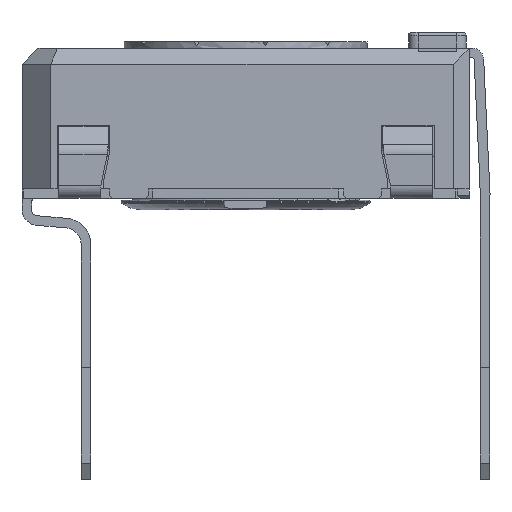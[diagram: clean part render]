
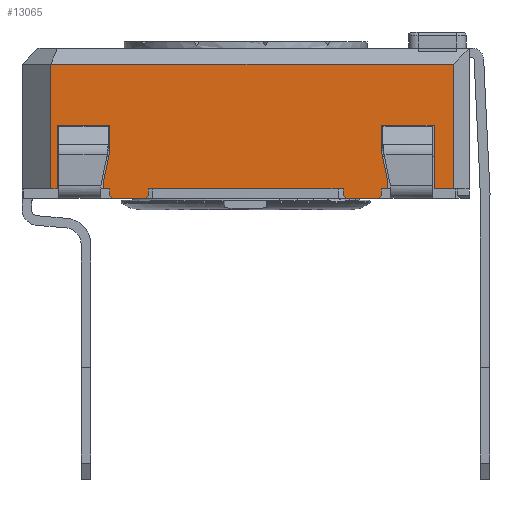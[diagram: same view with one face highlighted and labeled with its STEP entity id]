
A CAD part, left-side view. The second image highlights one B-rep face of the part: STEP entity #13065.
In plain terms, the highlighted planar face has unit normal (-1, 0, 0).
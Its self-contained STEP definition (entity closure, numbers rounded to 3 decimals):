
#1029=FACE_OUTER_BOUND('',#1723,.T.);
#1723=EDGE_LOOP('',(#10419,#10420,#10421,#10422,#10423,#10424,#10425,#10426,
#10427,#10428,#10429,#10430,#10431,#10432,#10433,#10434,#10435,#10436,#10437,
#10438,#10439,#10440,#10441,#10442,#10443,#10444,#10445,#10446));
#2717=LINE('',#19934,#4217);
#2723=LINE('',#19946,#4223);
#2726=LINE('',#19953,#4226);
#2731=LINE('',#19962,#4231);
#2751=LINE('',#20003,#4251);
#2765=LINE('',#20029,#4265);
#2769=LINE('',#20036,#4269);
#2784=LINE('',#20065,#4284);
#2787=LINE('',#20071,#4287);
#2792=LINE('',#20081,#4292);
#2795=LINE('',#20087,#4295);
#2798=LINE('',#20093,#4298);
#2816=LINE('',#20128,#4316);
#2828=LINE('',#20150,#4328);
#2831=LINE('',#20156,#4331);
#2868=LINE('',#20290,#4368);
#2871=LINE('',#20296,#4371);
#2897=LINE('',#20343,#4397);
#2902=LINE('',#20353,#4402);
#2904=LINE('',#20356,#4404);
#3028=LINE('',#20664,#4528);
#3030=LINE('',#20669,#4530);
#3033=LINE('',#20673,#4533);
#3035=LINE('',#20677,#4535);
#3038=LINE('',#20685,#4538);
#3039=LINE('',#20687,#4539);
#3040=LINE('',#20688,#4540);
#3041=LINE('',#20689,#4541);
#4217=VECTOR('',#16030,10.);
#4223=VECTOR('',#16038,10.);
#4226=VECTOR('',#16043,10.);
#4231=VECTOR('',#16050,10.);
#4251=VECTOR('',#16084,10.);
#4265=VECTOR('',#16098,10.);
#4269=VECTOR('',#16102,10.);
#4284=VECTOR('',#16129,10.);
#4287=VECTOR('',#16134,10.);
#4292=VECTOR('',#16141,10.);
#4295=VECTOR('',#16146,10.);
#4298=VECTOR('',#16151,10.);
#4316=VECTOR('',#16171,10.);
#4328=VECTOR('',#16185,10.);
#4331=VECTOR('',#16190,10.);
#4368=VECTOR('',#16271,10.);
#4371=VECTOR('',#16276,10.);
#4397=VECTOR('',#16304,10.);
#4402=VECTOR('',#16311,10.);
#4404=VECTOR('',#16315,10.);
#4528=VECTOR('',#16607,10.);
#4530=VECTOR('',#16611,10.);
#4533=VECTOR('',#16616,10.);
#4535=VECTOR('',#16622,10.);
#4538=VECTOR('',#16633,10.);
#4539=VECTOR('',#16634,10.);
#4540=VECTOR('',#16635,10.);
#4541=VECTOR('',#16636,10.);
#5624=VERTEX_POINT('',#19931);
#5625=VERTEX_POINT('',#19933);
#5629=VERTEX_POINT('',#19943);
#5631=VERTEX_POINT('',#19949);
#5633=VERTEX_POINT('',#19952);
#5636=VERTEX_POINT('',#19960);
#5661=VERTEX_POINT('',#20026);
#5662=VERTEX_POINT('',#20028);
#5664=VERTEX_POINT('',#20033);
#5665=VERTEX_POINT('',#20035);
#5672=VERTEX_POINT('',#20062);
#5674=VERTEX_POINT('',#20068);
#5678=VERTEX_POINT('',#20078);
#5680=VERTEX_POINT('',#20084);
#5683=VERTEX_POINT('',#20091);
#5699=VERTEX_POINT('',#20126);
#5708=VERTEX_POINT('',#20148);
#5710=VERTEX_POINT('',#20154);
#5737=VERTEX_POINT('',#20288);
#5738=VERTEX_POINT('',#20293);
#5758=VERTEX_POINT('',#20340);
#5762=VERTEX_POINT('',#20350);
#5836=VERTEX_POINT('',#20661);
#5837=VERTEX_POINT('',#20663);
#5838=VERTEX_POINT('',#20667);
#5839=VERTEX_POINT('',#20668);
#5840=VERTEX_POINT('',#20684);
#5841=VERTEX_POINT('',#20686);
#7137=EDGE_CURVE('',#5625,#5624,#2717,.T.);
#7143=EDGE_CURVE('',#5624,#5629,#2723,.T.);
#7146=EDGE_CURVE('',#5633,#5631,#2726,.T.);
#7151=EDGE_CURVE('',#5636,#5631,#2731,.T.);
#7171=EDGE_CURVE('',#5629,#5633,#2751,.T.);
#7185=EDGE_CURVE('',#5662,#5661,#2765,.T.);
#7189=EDGE_CURVE('',#5665,#5664,#2769,.T.);
#7205=EDGE_CURVE('',#5661,#5672,#2784,.T.);
#7208=EDGE_CURVE('',#5672,#5674,#2787,.T.);
#7213=EDGE_CURVE('',#5674,#5678,#2792,.T.);
#7216=EDGE_CURVE('',#5678,#5680,#2795,.T.);
#7219=EDGE_CURVE('',#5680,#5683,#2798,.T.);
#7237=EDGE_CURVE('',#5683,#5699,#2816,.T.);
#7249=EDGE_CURVE('',#5708,#5699,#2828,.T.);
#7252=EDGE_CURVE('',#5710,#5708,#2831,.T.);
#7301=EDGE_CURVE('',#5737,#5710,#2868,.T.);
#7304=EDGE_CURVE('',#5737,#5738,#2871,.T.);
#7330=EDGE_CURVE('',#5738,#5758,#2897,.T.);
#7335=EDGE_CURVE('',#5758,#5762,#2902,.T.);
#7337=EDGE_CURVE('',#5762,#5625,#2904,.T.);
#7477=EDGE_CURVE('',#5836,#5837,#3028,.T.);
#7479=EDGE_CURVE('',#5838,#5839,#3030,.T.);
#7482=EDGE_CURVE('',#5662,#5836,#3033,.T.);
#7484=EDGE_CURVE('',#5664,#5839,#3035,.T.);
#7487=EDGE_CURVE('',#5636,#5840,#3038,.T.);
#7488=EDGE_CURVE('',#5841,#5840,#3039,.T.);
#7489=EDGE_CURVE('',#5665,#5841,#3040,.T.);
#7490=EDGE_CURVE('',#5838,#5837,#3041,.T.);
#10419=ORIENTED_EDGE('',*,*,#7143,.T.);
#10420=ORIENTED_EDGE('',*,*,#7171,.T.);
#10421=ORIENTED_EDGE('',*,*,#7146,.T.);
#10422=ORIENTED_EDGE('',*,*,#7151,.F.);
#10423=ORIENTED_EDGE('',*,*,#7487,.T.);
#10424=ORIENTED_EDGE('',*,*,#7488,.F.);
#10425=ORIENTED_EDGE('',*,*,#7489,.F.);
#10426=ORIENTED_EDGE('',*,*,#7189,.T.);
#10427=ORIENTED_EDGE('',*,*,#7484,.T.);
#10428=ORIENTED_EDGE('',*,*,#7479,.F.);
#10429=ORIENTED_EDGE('',*,*,#7490,.T.);
#10430=ORIENTED_EDGE('',*,*,#7477,.F.);
#10431=ORIENTED_EDGE('',*,*,#7482,.F.);
#10432=ORIENTED_EDGE('',*,*,#7185,.T.);
#10433=ORIENTED_EDGE('',*,*,#7205,.T.);
#10434=ORIENTED_EDGE('',*,*,#7208,.T.);
#10435=ORIENTED_EDGE('',*,*,#7213,.T.);
#10436=ORIENTED_EDGE('',*,*,#7216,.T.);
#10437=ORIENTED_EDGE('',*,*,#7219,.T.);
#10438=ORIENTED_EDGE('',*,*,#7237,.T.);
#10439=ORIENTED_EDGE('',*,*,#7249,.F.);
#10440=ORIENTED_EDGE('',*,*,#7252,.F.);
#10441=ORIENTED_EDGE('',*,*,#7301,.F.);
#10442=ORIENTED_EDGE('',*,*,#7304,.T.);
#10443=ORIENTED_EDGE('',*,*,#7330,.T.);
#10444=ORIENTED_EDGE('',*,*,#7335,.T.);
#10445=ORIENTED_EDGE('',*,*,#7337,.T.);
#10446=ORIENTED_EDGE('',*,*,#7137,.T.);
#12235=PLANE('',#13955);
#13065=ADVANCED_FACE('',(#1029),#12235,.T.);
#13955=AXIS2_PLACEMENT_3D('',#20683,#16631,#16632);
#16030=DIRECTION('',(0.,0.208,-0.978));
#16038=DIRECTION('',(0.,0.,-1.));
#16043=DIRECTION('',(0.,0.,-1.));
#16050=DIRECTION('',(0.,0.707,0.707));
#16084=DIRECTION('',(0.,-1.,0.));
#16098=DIRECTION('',(0.,-1.,0.));
#16102=DIRECTION('',(0.,-1.,0.));
#16129=DIRECTION('',(0.,0.,1.));
#16134=DIRECTION('',(0.,0.208,0.978));
#16141=DIRECTION('',(0.,0.,1.));
#16146=DIRECTION('',(0.,-1.,0.));
#16151=DIRECTION('',(0.,0.,-1.));
#16171=DIRECTION('',(0.,-1.,0.));
#16185=DIRECTION('',(0.,0.,-1.));
#16190=DIRECTION('',(0.,-1.,0.));
#16271=DIRECTION('',(0.,0.,1.));
#16276=DIRECTION('',(0.,-1.,0.));
#16304=DIRECTION('',(0.,0.,1.));
#16311=DIRECTION('',(0.,-1.,0.));
#16315=DIRECTION('',(0.,0.,-1.));
#16607=DIRECTION('',(0.,0.707,-0.707));
#16611=DIRECTION('',(0.,0.707,0.707));
#16616=DIRECTION('',(0.,0.,-1.));
#16622=DIRECTION('',(0.,0.,-1.));
#16631=DIRECTION('center_axis',(-1.,0.,0.));
#16632=DIRECTION('ref_axis',(0.,0.,1.));
#16633=DIRECTION('',(0.,-1.,0.));
#16634=DIRECTION('',(0.,0.707,-0.707));
#16635=DIRECTION('',(0.,0.,-1.));
#16636=DIRECTION('',(0.,-1.,0.));
#19931=CARTESIAN_POINT('',(-14.467,1.552,0.235));
#19933=CARTESIAN_POINT('',(-14.467,1.352,1.176));
#19934=CARTESIAN_POINT('',(-14.467,1.228,1.757));
#19943=CARTESIAN_POINT('',(-14.467,1.552,0.));
#19946=CARTESIAN_POINT('',(-14.467,1.552,0.));
#19949=CARTESIAN_POINT('',(-14.467,1.352,-0.2));
#19952=CARTESIAN_POINT('',(-14.467,1.352,0.));
#19953=CARTESIAN_POINT('',(-14.467,1.352,0.));
#19960=CARTESIAN_POINT('',(-14.467,1.252,-0.3));
#19962=CARTESIAN_POINT('',(-14.467,-1.436,-2.988));
#20003=CARTESIAN_POINT('',(-14.467,4.102,0.));
#20026=CARTESIAN_POINT('',(-14.467,-7.348,0.));
#20028=CARTESIAN_POINT('',(-14.467,-7.148,0.));
#20029=CARTESIAN_POINT('',(-14.467,4.102,0.));
#20033=CARTESIAN_POINT('',(-14.467,-5.948,0.));
#20035=CARTESIAN_POINT('',(-14.467,0.152,0.));
#20036=CARTESIAN_POINT('',(-14.467,4.102,0.));
#20062=CARTESIAN_POINT('',(-14.467,-7.348,0.235));
#20065=CARTESIAN_POINT('',(-14.467,-7.348,0.118));
#20068=CARTESIAN_POINT('',(-14.467,-7.148,1.176));
#20071=CARTESIAN_POINT('',(-14.467,-7.453,-0.254));
#20078=CARTESIAN_POINT('',(-14.467,-7.148,2.));
#20081=CARTESIAN_POINT('',(-14.467,-7.148,0.588));
#20084=CARTESIAN_POINT('',(-14.467,-8.798,2.));
#20087=CARTESIAN_POINT('',(-14.467,-8.523,2.));
#20091=CARTESIAN_POINT('',(-14.467,-8.798,0.));
#20093=CARTESIAN_POINT('',(-14.467,-8.798,0.));
#20126=CARTESIAN_POINT('',(-14.467,-9.398,0.));
#20128=CARTESIAN_POINT('',(-14.467,-9.595,0.));
#20148=CARTESIAN_POINT('',(-14.467,-9.398,3.9));
#20150=CARTESIAN_POINT('',(-14.467,-9.398,0.));
#20154=CARTESIAN_POINT('',(-14.467,3.202,3.9));
#20156=CARTESIAN_POINT('',(-14.467,-6.398,3.9));
#20288=CARTESIAN_POINT('',(-14.467,3.202,0.));
#20290=CARTESIAN_POINT('',(-14.467,3.202,0.));
#20293=CARTESIAN_POINT('',(-14.467,3.002,0.));
#20296=CARTESIAN_POINT('',(-14.467,-2.985,0.));
#20340=CARTESIAN_POINT('',(-14.467,3.002,2.));
#20343=CARTESIAN_POINT('',(-14.467,3.002,0.));
#20350=CARTESIAN_POINT('',(-14.467,1.352,2.));
#20353=CARTESIAN_POINT('',(-14.467,-3.448,2.));
#20356=CARTESIAN_POINT('',(-14.467,1.352,1.));
#20661=CARTESIAN_POINT('',(-14.467,-7.148,-0.2));
#20663=CARTESIAN_POINT('',(-14.467,-7.048,-0.3));
#20664=CARTESIAN_POINT('',(-14.467,-7.861,0.513));
#20667=CARTESIAN_POINT('',(-14.467,-6.048,-0.3));
#20668=CARTESIAN_POINT('',(-14.467,-5.948,-0.2));
#20669=CARTESIAN_POINT('',(-14.467,-6.911,-1.163));
#20673=CARTESIAN_POINT('',(-14.467,-7.148,0.));
#20677=CARTESIAN_POINT('',(-14.467,-5.948,0.));
#20683=CARTESIAN_POINT('Origin',(-14.467,-9.898,0.));
#20684=CARTESIAN_POINT('',(-14.467,0.252,-0.3));
#20685=CARTESIAN_POINT('',(-14.467,0.152,-0.3));
#20686=CARTESIAN_POINT('',(-14.467,0.152,-0.2));
#20687=CARTESIAN_POINT('',(-14.467,-2.386,2.338));
#20688=CARTESIAN_POINT('',(-14.467,0.152,0.));
#20689=CARTESIAN_POINT('',(-14.467,-7.148,-0.3));
